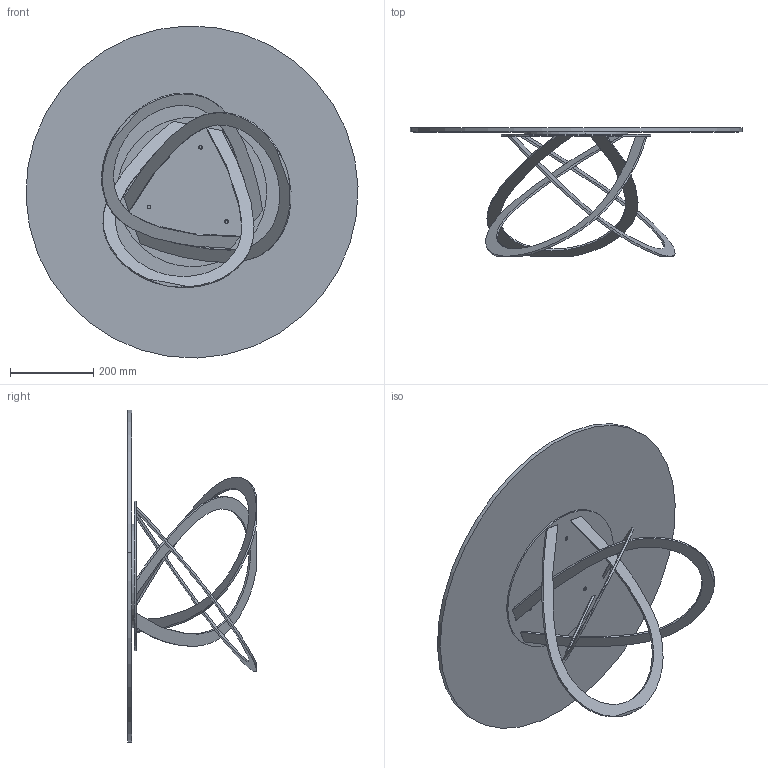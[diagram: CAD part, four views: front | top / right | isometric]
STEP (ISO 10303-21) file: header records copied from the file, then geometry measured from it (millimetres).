
FILE_DESCRIPTION (( 'STEP AP203' ), '1' );
FILE_NAME ('FL12G_Febe Low_d80xh32_Glass.STEP', '2024-08-06T08:59:23', ( '' ), ( '' ), 'SwSTEP 2.0', 'SolidWorks 2022', '' );
FILE_SCHEMA (( 'CONFIG_CONTROL_DESIGN' ));
Length unit declared in the file: millimetre
Products named in the file (7): P0000003-00-STAFFA DI FISSAGGIO DIAMETRO 250_P0000003-250mm normale; CXXCRXX-00-Piani Rotondi in Cristallo CON PIASTRA_C02P PIANO CRISTALLO D.80cm; FET00000032_01-00-FEBE DISCO METALLO SUPERIORE H.32cm_POS. gambe 380; FET000000XX-00-FEBE STRUTTURA BASE H.XXcm_FEBE 60; C1XCRMXX-00-piani Rotondi Cristallo_C02 D.80cm; FL12G_Febe Low_d80xh32_Glass; FET00000032_02-00-FEBE GAMBA PER H.32cm_gamba per febe 60
Assembly tree (8 placements, depth 3):
  FL12G_Febe Low_d80xh32_Glass
    CXXCRXX-00-Piani Rotondi in Cristallo CON PIASTRA_C02P PIANO CRISTALLO D.80cm
      C1XCRMXX-00-piani Rotondi Cristallo_C02 D.80cm
      P0000003-00-STAFFA DI FISSAGGIO DIAMETRO 250_P0000003-250mm normale
    FET000000XX-00-FEBE STRUTTURA BASE H.XXcm_FEBE 60
      FET00000032_02-00-FEBE GAMBA PER H.32cm_gamba per febe 60  x3
      FET00000032_01-00-FEBE DISCO METALLO SUPERIORE H.32cm_POS. gambe 380
Bounding box: 799.58 x 309.55 x 799.58 mm (x, y, z)
Volume: 6259455.2 mm3; surface area: 1590686.3 mm2
Topology: 6 solids, 6 shells, 83 faces, 192 edges, 127 vertices
Faces by surface type: plane 39, cylinder 26, bspline 18
Entity records: 3005 total; most frequent: CARTESIAN_POINT 719, DIRECTION 314, ORIENTED_EDGE 304, EDGE_CURVE 152, AXIS2_PLACEMENT_3D 120, VERTEX_POINT 101, EDGE_LOOP 85, LINE 74
